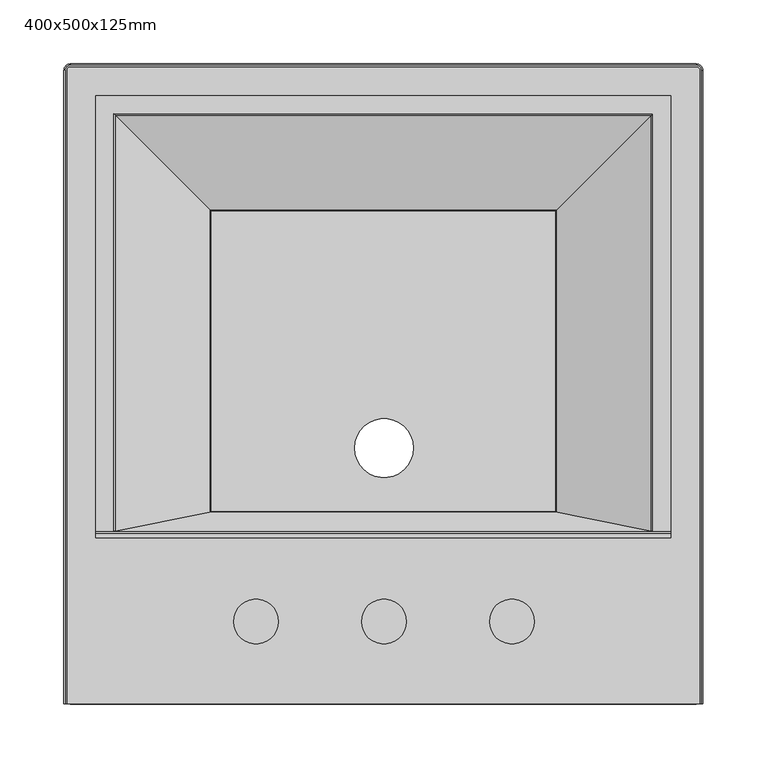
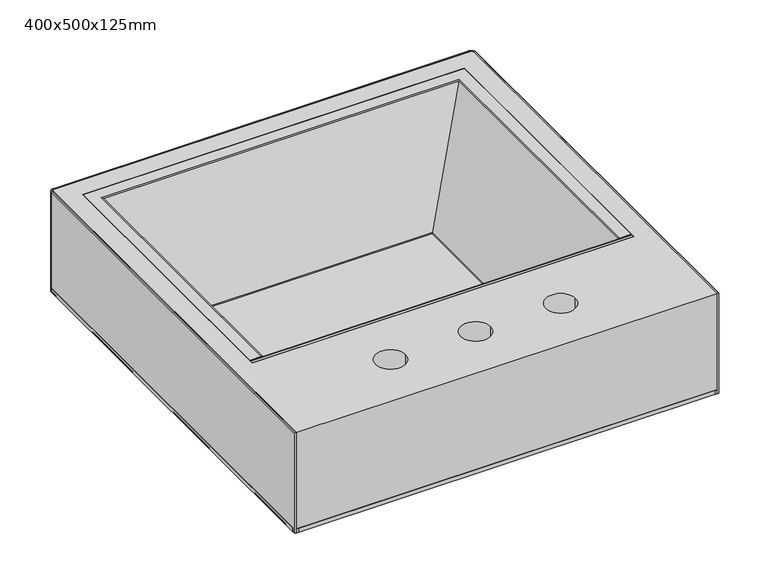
"""IFC4 building model written with IfcOpenShell, lengths in millimetres: flow terminal geometry, ARQ_LAVADO : 400x500x125mm."""

from ifc_helpers import new_model, si_unit, point, frame, frame_2d, origin, place, context, project, spatial, polyline, circle_curve, ellipse_curve, trimmed, segment, composite_curve, outline, extrude, source, transform, mapped, element, save
from ifc_brep_helpers import plane_surface, cylinder_surface, revolved_surface, advanced_brep


def flow_terminal_400x500x125mm_b4930f80(model_context):
    return source(origin(), model_context, "Body", "SolidModel", [
        extrude(outline(composite_curve([segment(trimmed(circle_curve(frame_2d((-119.4895, 555.0)), 5.0), [point((-124.4895, 555.0))], [point((-119.4895, 560.0))], False, "CARTESIAN"), True, "CONTINUOUS"), segment(polyline([(-119.4895, 560.0), (369.4895, 560.0)]), True, "CONTINUOUS"), segment(trimmed(circle_curve(frame_2d((369.4895, 555.0)), 5.0), [point((369.4895, 560.0))], [point((374.4895, 555.0))], False, "CARTESIAN"), True, "CONTINUOUS"), segment(polyline([(374.4895, 555.0), (374.4895, 65.0)]), True, "CONTINUOUS"), segment(trimmed(circle_curve(frame_2d((369.4895, 65.0)), 5.0), [point((374.4895, 65.0))], [point((369.4895, 60.0))], False, "CARTESIAN"), True, "CONTINUOUS"), segment(polyline([(369.4895, 60.0), (-119.4895, 60.0)]), True, "CONTINUOUS"), segment(trimmed(circle_curve(frame_2d((-119.4895, 65.0)), 5.0), [point((-119.4895, 60.0))], [point((-124.4895, 65.0))], False, "CARTESIAN"), True, "CONTINUOUS"), segment(polyline([(-124.4895, 65.0), (-124.4895, 555.0)]), True, "CONTINUOUS")], self_intersect=False), holes=[composite_curve([segment(trimmed(circle_curve(frame_2d((125.5105, 260.0)), 23.0), [point((148.5105, 260.0))], [point((102.5105, 260.0))], True, "CARTESIAN"), True, "CONTINUOUS"), segment(trimmed(circle_curve(frame_2d((125.5105, 260.0)), 23.0), [point((102.5105, 260.0))], [point((148.5105, 260.0))], True, "CARTESIAN"), True, "CONTINUOUS")], self_intersect=False)]), frame((0.0, 0.0, 624.95758), z_axis=(0.0, 0.0, 1.0), x_axis=(1.0, 0.0, 0.0)), (0.0, 0.0, 1.0), 5.04242),
        advanced_brep(
        [(-123.4895, 60.0, 750.0), (-124.4895, 60.0, 749.0), (-124.4895, 60.0, 626.0), (-123.4895, 60.0, 625.0), (-122.4895, 60.0, 625.0), (-122.4895, 60.0, 750.0), (-123.4895, 555.0, 750.0), (-124.4895, 555.0, 749.0), (-124.4895, 555.0, 626.0), (-123.4895, 555.0, 625.0), (-119.4895, 559.0, 625.0), (369.4895, 559.0, 625.0), (373.4895, 555.0, 625.0), (373.4895, 60.0, 625.0), (372.4895, 60.0, 625.0), (372.4895, 555.0, 625.0), (369.4895, 558.0, 625.0), (-119.4895, 558.0, 625.0), (-122.4895, 555.0, 625.0), (-122.4895, 555.0, 750.0), (-119.4895, 558.0, 750.0), (369.4895, 558.0, 750.0), (372.4895, 555.0, 750.0), (372.4895, 60.0, 750.0), (373.4895, 60.0, 750.0), (373.4895, 555.0, 750.0), (369.4895, 559.0, 750.0), (-119.4895, 559.0, 750.0), (-119.4895, 560.0, 749.0), (-119.4895, 560.0, 626.0), (369.4895, 560.0, 749.0), (369.4895, 560.0, 626.0), (374.4895, 555.0, 749.0), (374.4895, 555.0, 626.0), (374.4895, 60.0, 626.0), (374.4895, 60.0, 749.0)],
        [
            (0, 1, circle_curve(frame((-123.4895, 60.0, 749.0), z_axis=(0.0, -1.0, 0.0), x_axis=(-1.0, 0.0, 0.0)), 1.0)),
            (1, 2),
            (2, 3, circle_curve(frame((-123.4895, 60.0, 626.0), z_axis=(0.0, -1.0, 0.0), x_axis=(-1.0, 0.0, 0.0)), 1.0)),
            (3, 4),
            (4, 5),
            (5, 0),
            (0, 6),
            (6, 7, circle_curve(frame((-123.4895, 555.0, 749.0), z_axis=(0.0, -1.0, 0.0), x_axis=(-1.0, 0.0, 0.0)), 1.0)),
            (7, 1),
            (7, 8),
            (8, 2),
            (8, 9, circle_curve(frame((-123.4895, 555.0, 626.0), z_axis=(0.0, -1.0, 0.0), x_axis=(-1.0, 0.0, 0.0)), 1.0)),
            (9, 3),
            (9, 10, circle_curve(frame((-119.4895, 555.0, 625.0), z_axis=(0.0, 0.0, -1.0), x_axis=(-1.0, 0.0, 0.0)), 4.0)),
            (10, 11),
            (11, 12, circle_curve(frame((369.4895, 555.0, 625.0), z_axis=(0.0, 0.0, -1.0), x_axis=(0.0, 1.0, 0.0)), 4.0)),
            (12, 13),
            (13, 14),
            (14, 15),
            (15, 16, circle_curve(frame((369.4895, 555.0, 625.0), z_axis=(0.0, 0.0, 1.0), x_axis=(0.0, 1.0, 0.0)), 3.0)),
            (16, 17),
            (17, 18, circle_curve(frame((-119.4895, 555.0, 625.0), z_axis=(0.0, 0.0, 1.0), x_axis=(-1.0, 0.0, 0.0)), 3.0)),
            (18, 4),
            (18, 19),
            (19, 5),
            (19, 20, circle_curve(frame((-119.4895, 555.0, 750.0), z_axis=(0.0, 0.0, -1.0), x_axis=(-1.0, 0.0, 0.0)), 3.0)),
            (20, 21),
            (21, 22, circle_curve(frame((369.4895, 555.0, 750.0), z_axis=(0.0, 0.0, -1.0), x_axis=(0.0, 1.0, 0.0)), 3.0)),
            (22, 23),
            (23, 24),
            (24, 25),
            (25, 26, circle_curve(frame((369.4895, 555.0, 750.0), z_axis=(0.0, 0.0, 1.0), x_axis=(0.0, 1.0, 0.0)), 4.0)),
            (26, 27),
            (27, 6, circle_curve(frame((-119.4895, 555.0, 750.0), z_axis=(0.0, 0.0, 1.0), x_axis=(-1.0, 0.0, 0.0)), 4.0)),
            (28, 7, circle_curve(frame((-119.4895, 555.0, 749.0), z_axis=(0.0, 0.0, 1.0), x_axis=(-1.0, 0.0, 0.0)), 5.0)),
            (27, 28, circle_curve(frame((-119.4895, 559.0, 749.0), z_axis=(-1.0, 0.0, 0.0), x_axis=(0.0, 1.0, 0.0)), 1.0)),
            (29, 8, circle_curve(frame((-119.4895, 555.0, 626.0), z_axis=(0.0, 0.0, 1.0), x_axis=(-1.0, 0.0, 0.0)), 5.0)),
            (28, 29),
            (29, 10, circle_curve(frame((-119.4895, 559.0, 626.0), z_axis=(-1.0, 0.0, 0.0), x_axis=(0.0, 1.0, 0.0)), 1.0)),
            (17, 20),
            (26, 30, circle_curve(frame((369.4895, 559.0, 749.0), z_axis=(-1.0, 0.0, 0.0), x_axis=(0.0, 1.0, 0.0)), 1.0)),
            (30, 28),
            (30, 31),
            (31, 29),
            (31, 11, circle_curve(frame((369.4895, 559.0, 626.0), z_axis=(-1.0, 0.0, 0.0), x_axis=(0.0, 1.0, 0.0)), 1.0)),
            (16, 21),
            (32, 30, circle_curve(frame((369.4895, 555.0, 749.0), z_axis=(0.0, 0.0, 1.0), x_axis=(0.0, 1.0, 0.0)), 5.0)),
            (25, 32, circle_curve(frame((373.4895, 555.0, 749.0), z_axis=(0.0, 1.0, 0.0), x_axis=(1.0, 0.0, 0.0)), 1.0)),
            (33, 31, circle_curve(frame((369.4895, 555.0, 626.0), z_axis=(0.0, 0.0, 1.0), x_axis=(0.0, 1.0, 0.0)), 5.0)),
            (32, 33),
            (33, 12, circle_curve(frame((373.4895, 555.0, 626.0), z_axis=(0.0, 1.0, 0.0), x_axis=(1.0, 0.0, 0.0)), 1.0)),
            (15, 22),
            (23, 14),
            (13, 34, circle_curve(frame((373.4895, 60.0, 626.0), z_axis=(0.0, -1.0, 0.0), x_axis=(1.0, 0.0, 0.0)), 1.0)),
            (34, 35),
            (35, 24, circle_curve(frame((373.4895, 60.0, 749.0), z_axis=(0.0, -1.0, 0.0), x_axis=(1.0, 0.0, 0.0)), 1.0)),
            (35, 32),
            (34, 33),
        ],
        [
            plane_surface(frame((-124.4895, 60.0, 630.0), z_axis=(0.0, -1.0, 0.0), x_axis=(0.0, 0.0, 1.0))),
            cylinder_surface(frame((-123.4895, 60.0, 749.0), z_axis=(0.0, -1.0, 0.0), x_axis=(-1.0, 0.0, 0.0)), 1.0),
            plane_surface(frame((-124.4895, 60.0, 749.0), z_axis=(-1.0, 0.0, 0.0), x_axis=(0.0, 1.0, 0.0))),
            cylinder_surface(frame((-123.4895, 60.0, 626.0), z_axis=(0.0, -1.0, 0.0), x_axis=(-1.0, 0.0, 0.0)), 1.0),
            plane_surface(frame((-123.4895, 60.0, 625.0), z_axis=(0.0, 0.0, -1.0), x_axis=(0.0, 1.0, 0.0))),
            plane_surface(frame((-122.4895, 60.0, 625.0), z_axis=(1.0, 0.0, 0.0), x_axis=(0.0, 1.0, 0.0))),
            plane_surface(frame((-122.4895, 60.0, 750.0), z_axis=(0.0, 0.0, 1.0), x_axis=(0.0, 1.0, 0.0))),
            revolved_surface(trimmed(ellipse_curve(frame((-123.4895, 555.0, 749.0), z_axis=(0.0, -1.0, 0.0), x_axis=(-1.0, 0.0, 0.0)), 1.0, 1.0), [point((-123.4895, 555.0, 750.0))], [point((-124.4895, 555.0, 749.0))], True, "CARTESIAN"), (-119.4895, 555.0, 630.0), (0.0, 0.0, -1.0)),
            cylinder_surface(frame((-119.4895, 555.0, 630.0), z_axis=(0.0, 0.0, -1.0), x_axis=(-1.0, 0.0, 0.0)), 5.0),
            revolved_surface(trimmed(ellipse_curve(frame((-123.4895, 555.0, 626.0), z_axis=(0.0, -1.0, 0.0), x_axis=(-1.0, 0.0, 0.0)), 1.0, 1.0), [point((-124.4895, 555.0, 626.0))], [point((-123.4895, 555.0, 625.0))], True, "CARTESIAN"), (-119.4895, 555.0, 630.0), (0.0, 0.0, -1.0)),
            revolved_surface(polyline([(-122.4895, 555.0, 625.0), (-122.4895, 555.0, 750.0)]), (-119.4895, 555.0, 630.0), (0.0, 0.0, -1.0)),
            cylinder_surface(frame((-119.4895, 559.0, 749.0), z_axis=(-1.0, 0.0, 0.0), x_axis=(0.0, 1.0, 0.0)), 1.0),
            plane_surface(frame((-119.4895, 560.0, 749.0), z_axis=(0.0, 1.0, 0.0), x_axis=(1.0, 0.0, 0.0))),
            cylinder_surface(frame((-119.4895, 559.0, 626.0), z_axis=(-1.0, 0.0, 0.0), x_axis=(0.0, 1.0, 0.0)), 1.0),
            plane_surface(frame((-119.4895, 558.0, 625.0), z_axis=(0.0, -1.0, 0.0), x_axis=(1.0, 0.0, 0.0))),
            revolved_surface(trimmed(ellipse_curve(frame((369.4895, 559.0, 749.0), z_axis=(-1.0, 0.0, 0.0), x_axis=(0.0, 1.0, 0.0)), 1.0, 1.0), [point((369.4895, 559.0, 750.0))], [point((369.4895, 560.0, 749.0))], True, "CARTESIAN"), (369.4895, 555.0, 630.0), (0.0, 0.0, -1.0)),
            cylinder_surface(frame((369.4895, 555.0, 630.0), z_axis=(0.0, 0.0, -1.0), x_axis=(0.0, 1.0, 0.0)), 5.0),
            revolved_surface(trimmed(ellipse_curve(frame((369.4895, 559.0, 626.0), z_axis=(-1.0, 0.0, 0.0), x_axis=(0.0, 1.0, 0.0)), 1.0, 1.0), [point((369.4895, 560.0, 626.0))], [point((369.4895, 559.0, 625.0))], True, "CARTESIAN"), (369.4895, 555.0, 630.0), (0.0, 0.0, -1.0)),
            revolved_surface(polyline([(369.4895, 558.0, 625.0), (369.4895, 558.0, 750.0)]), (369.4895, 555.0, 630.0), (0.0, 0.0, -1.0)),
            plane_surface(frame((374.4895, 60.0, 630.0), z_axis=(0.0, -1.0, 0.0), x_axis=(0.0, 0.0, 1.0))),
            cylinder_surface(frame((373.4895, 555.0, 749.0), z_axis=(0.0, 1.0, 0.0), x_axis=(1.0, 0.0, 0.0)), 1.0),
            plane_surface(frame((374.4895, 555.0, 749.0), z_axis=(1.0, 0.0, 0.0), x_axis=(0.0, -1.0, 0.0))),
            cylinder_surface(frame((373.4895, 555.0, 626.0), z_axis=(0.0, 1.0, 0.0), x_axis=(1.0, 0.0, 0.0)), 1.0),
            plane_surface(frame((372.4895, 555.0, 625.0), z_axis=(-1.0, 0.0, 0.0), x_axis=(0.0, -1.0, 0.0))),
        ],
        [
            (0, [[1, 2, 3, 4, 5, 6]]),
            (1, [[-1, 7, 8, 9]]),
            (2, [[-2, -9, 10, 11]]),
            (3, [[-3, -11, 12, 13]]),
            (4, [[-4, -13, 14, 15, 16, 17, 18, 19, 20, 21, 22, 23]]),
            (5, [[-5, -23, 24, 25]]),
            (6, [[-6, -25, 26, 27, 28, 29, 30, 31, 32, 33, 34, -7]]),
            (7, [[35, -8, -34, 36]]),
            (8, [[37, -10, -35, 38]]),
            (9, [[-14, -12, -37, 39]]),
            (10, [[-26, -24, -22, 40]]),
            (11, [[-36, -33, 41, 42]]),
            (12, [[-38, -42, 43, 44]]),
            (13, [[-39, -44, 45, -15]]),
            (14, [[-40, -21, 46, -27]]),
            (15, [[47, -41, -32, 48]]),
            (16, [[49, -43, -47, 50]]),
            (17, [[-16, -45, -49, 51]]),
            (18, [[-28, -46, -20, 52]]),
            (19, [[-30, 53, -18, 54, 55, 56]]),
            (20, [[-48, -31, -56, 57]]),
            (21, [[-50, -57, -55, 58]]),
            (22, [[-51, -58, -54, -17]]),
            (23, [[-52, -19, -53, -29]]),
        ],
    ),
        extrude(outline(composite_curve([segment(trimmed(circle_curve(frame_2d((369.4895, 555.0)), 3.0), [point((369.4895, 558.0))], [point((372.4895, 555.0))], False, "CARTESIAN"), True, "CONTINUOUS"), segment(polyline([(372.4895, 555.0), (372.4895, 60.0), (-122.4895, 60.0), (-122.4895, 555.0)]), True, "CONTINUOUS"), segment(trimmed(circle_curve(frame_2d((-119.4895, 555.0)), 3.0), [point((-122.4895, 555.0))], [point((-119.4895, 558.0))], False, "CARTESIAN"), True, "CONTINUOUS"), segment(polyline([(-119.4895, 558.0), (369.4895, 558.0)]), True, "CONTINUOUS")], self_intersect=False), holes=[composite_curve([segment(trimmed(circle_curve(frame_2d((25.51071, 124.360641)), 17.5), [point((8.01071, 124.360641))], [point((43.01071, 124.360641))], True, "CARTESIAN"), True, "CONTINUOUS"), segment(trimmed(circle_curve(frame_2d((25.51071, 124.360641)), 17.5), [point((43.01071, 124.360641))], [point((8.01071, 124.360641))], True, "CARTESIAN"), True, "CONTINUOUS")], self_intersect=False), composite_curve([segment(trimmed(circle_curve(frame_2d((125.51071, 124.360641)), 17.5), [point((108.01071, 124.360641))], [point((143.01071, 124.360641))], True, "CARTESIAN"), True, "CONTINUOUS"), segment(trimmed(circle_curve(frame_2d((125.51071, 124.360641)), 17.5), [point((143.01071, 124.360641))], [point((108.01071, 124.360641))], True, "CARTESIAN"), True, "CONTINUOUS")], self_intersect=False), composite_curve([segment(trimmed(circle_curve(frame_2d((225.51071, 124.360641)), 17.5), [point((243.01071, 124.360641))], [point((208.01071, 124.360641))], True, "CARTESIAN"), True, "CONTINUOUS"), segment(trimmed(circle_curve(frame_2d((225.51071, 124.360641)), 17.5), [point((208.01071, 124.360641))], [point((243.01071, 124.360641))], True, "CARTESIAN"), True, "CONTINUOUS")], self_intersect=False), polyline([(-99.4895, 535.0), (-99.4895, 190.0), (349.4895, 190.0), (349.4895, 535.0), (-99.4895, 535.0)])]), frame((0.0, 0.0, 630.0), z_axis=(0.0, 0.0, 1.0), x_axis=(1.0, 0.0, 0.0)), (0.0, 0.0, 1.0), 120.0),
        extrude(outline(composite_curve([segment(polyline([(195.1022771, 748.2507881), (209.827107, 631.7492119)]), True, "CONTINUOUS"), segment(trimmed(circle_curve(frame_2d((211.811321, 632.0)), 2.0), [point((209.827107, 631.7492119))], [point((211.811321, 630.0))], True, "CARTESIAN"), True, "CONTINUOUS"), segment(polyline([(211.811321, 630.0), (215.6855127, 630.0), (215.6855127, 624.95758), (205.6855127, 624.95758), (189.8811913, 750.0), (193.1180631, 750.0)]), True, "CONTINUOUS"), segment(trimmed(circle_curve(frame_2d((193.1180631, 748.0)), 2.0), [point((193.1180631, 750.0))], [point((195.1022771, 748.2507881))], False, "CARTESIAN"), True, "CONTINUOUS")], self_intersect=False)), frame((-99.4895, 0.0, 0.0), z_axis=(1.0, 0.0, 0.0), x_axis=(0.0, 1.0, 0.0)), (0.0, 0.0, 1.0), 448.979),
        advanced_brep(
        [(-99.4895, 195.0, 750.0), (-99.4895, 195.0, 745.0), (-87.260742, 195.0, 745.0), (-12.2344223, 195.0, 624.95758), (-4.1362711, 195.0, 624.95758), (-4.1362711, 195.0, 630.0), (-8.381196, 195.0, 630.0), (-10.0771938, 195.0, 630.9400041), (-83.901999, 195.0, 749.0599959), (-85.5979968, 195.0, 750.0), (-99.4895, 535.0, 750.0), (-99.4895, 535.0, 745.0), (349.4895, 535.0, 745.0), (349.4895, 195.0, 745.0), (337.260742, 195.0, 745.0), (337.260742, 522.771242, 745.0), (-87.260742, 522.771242, 745.0), (-12.2344223, 447.7449223, 624.95758), (262.2344223, 447.7449223, 624.95758), (262.2344223, 195.0, 624.95758), (254.1362711, 195.0, 624.95758), (254.1362711, 439.6467711, 624.95758), (-4.1362711, 439.6467711, 624.95758), (-4.1362711, 439.6467711, 630.0), (254.1362711, 439.6467711, 630.0), (254.1362711, 195.0, 630.0), (258.381196, 195.0, 630.0), (258.381196, 443.891696, 630.0), (-8.381196, 443.891696, 630.0), (-10.0771938, 445.5876938, 630.9400041), (-83.901999, 519.412499, 749.0599959), (-85.5979968, 521.1084968, 750.0), (335.5979968, 521.1084968, 750.0), (335.5979968, 195.0, 750.0), (349.4895, 195.0, 750.0), (349.4895, 535.0, 750.0), (260.0771938, 445.5876938, 630.9400041), (333.901999, 519.412499, 749.0599959), (333.901999, 195.0, 749.0599959), (260.0771938, 195.0, 630.9400041)],
        [
            (0, 1),
            (1, 2),
            (2, 3),
            (3, 4),
            (4, 5),
            (5, 6),
            (6, 7, circle_curve(frame((-8.381196, 195.0, 632.0), z_axis=(0.0, 1.0, 0.0), x_axis=(-1.0, 0.0, 0.0)), 2.0)),
            (7, 8),
            (8, 9, circle_curve(frame((-85.5979968, 195.0, 748.0), z_axis=(0.0, -1.0, 0.0), x_axis=(-1.0, 0.0, 0.0)), 2.0)),
            (9, 0),
            (0, 10),
            (10, 11),
            (11, 1),
            (11, 12),
            (12, 13),
            (13, 14),
            (14, 15),
            (15, 16),
            (16, 2),
            (16, 17),
            (17, 3),
            (17, 18),
            (18, 19),
            (19, 20),
            (20, 21),
            (21, 22),
            (22, 4),
            (22, 23),
            (23, 5),
            (23, 24),
            (24, 25),
            (25, 26),
            (26, 27),
            (27, 28),
            (28, 6),
            (28, 29, ellipse_curve(frame((-8.381196, 443.891696, 632.0), z_axis=(0.7071067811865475, 0.7071067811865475, 0.0), x_axis=(-0.7071067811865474, 0.7071067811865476, 0.0)), 2.8284271, 2.0)),
            (29, 7),
            (29, 30),
            (30, 8),
            (30, 31, ellipse_curve(frame((-85.5979968, 521.1084968, 748.0), z_axis=(-0.7071067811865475, -0.7071067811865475, 0.0), x_axis=(0.7071067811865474, -0.7071067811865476, 0.0)), 2.8284271, 2.0)),
            (31, 9),
            (31, 32),
            (32, 33),
            (33, 34),
            (34, 35),
            (35, 10),
            (35, 12),
            (15, 18),
            (21, 24),
            (27, 36, ellipse_curve(frame((258.381196, 443.891696, 632.0), z_axis=(0.7071067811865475, -0.7071067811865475, 0.0), x_axis=(0.7071067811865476, 0.7071067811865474, 0.0)), 2.8284271, 2.0)),
            (36, 29),
            (36, 37),
            (37, 30),
            (37, 32, ellipse_curve(frame((335.5979968, 521.1084968, 748.0), z_axis=(-0.7071067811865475, 0.7071067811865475, 0.0), x_axis=(-0.7071067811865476, -0.7071067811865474, 0.0)), 2.8284271, 2.0)),
            (33, 38, circle_curve(frame((335.5979968, 195.0, 748.0), z_axis=(0.0, -1.0, 0.0), x_axis=(1.0, 0.0, 0.0)), 2.0)),
            (38, 39),
            (39, 26, circle_curve(frame((258.381196, 195.0, 632.0), z_axis=(0.0, 1.0, 0.0), x_axis=(1.0, 0.0, 0.0)), 2.0)),
            (25, 20),
            (19, 14),
            (13, 34),
            (39, 36),
            (38, 37),
        ],
        [
            plane_surface(frame((-99.4895, 195.0, 630.0), z_axis=(0.0, -1.0, 0.0), x_axis=(0.0, 0.0, 1.0))),
            plane_surface(frame((-99.4895, 195.0, 750.0), z_axis=(-1.0, 0.0, 0.0), x_axis=(0.0, 1.0, 0.0))),
            plane_surface(frame((-99.4895, 195.0, 745.0), z_axis=(0.0, 0.0, -1.0), x_axis=(0.0, 1.0, 0.0))),
            plane_surface(frame((-87.260742, 195.0, 745.0), z_axis=(-0.8479989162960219, 0.0, -0.5299979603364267), x_axis=(0.0, 1.0, 0.0))),
            plane_surface(frame((-12.2344223, 195.0, 624.95758), z_axis=(0.0, 0.0, -1.0), x_axis=(0.0, 1.0, 0.0))),
            plane_surface(frame((-4.1362711, 195.0, 624.95758), z_axis=(1.0, 0.0, 0.0), x_axis=(0.0, 1.0, 0.0))),
            plane_surface(frame((-4.1362711, 195.0, 630.0), z_axis=(0.0, 0.0, 1.0), x_axis=(0.0, 1.0, 0.0))),
            revolved_surface(polyline([(-10.381196, 445.8916959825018, 632.0), (-10.381196, 195.0, 632.0)]), (-8.381196, 195.0, 632.0), (0.0, 1.0, 0.0)),
            plane_surface(frame((-10.0771938, 195.0, 630.9400041), z_axis=(0.8479989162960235, 0.0, 0.529997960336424), x_axis=(0.0, 1.0, 0.0))),
            cylinder_surface(frame((-85.5979968, 195.0, 748.0), z_axis=(0.0, -1.0, 0.0), x_axis=(-1.0, 0.0, 0.0)), 2.0),
            plane_surface(frame((-85.5979968, 195.0, 750.0), z_axis=(0.0, 0.0, 1.0), x_axis=(0.0, 1.0, 0.0))),
            plane_surface(frame((-99.4895, 535.0, 750.0), z_axis=(0.0, 1.0, 0.0), x_axis=(1.0, 0.0, 0.0))),
            plane_surface(frame((-87.260742, 522.771242, 745.0), z_axis=(0.0, 0.8479989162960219, -0.5299979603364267), x_axis=(1.0, 0.0, 0.0))),
            plane_surface(frame((-4.1362711, 439.6467711, 624.95758), z_axis=(0.0, -1.0, 0.0), x_axis=(1.0, 0.0, 0.0))),
            revolved_surface(polyline([(260.38119598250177, 445.891696, 632.0), (-10.381195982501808, 445.891696, 632.0)]), (-99.4895, 443.891696, 632.0), (1.0, 0.0, 0.0)),
            plane_surface(frame((-10.0771938, 445.5876938, 630.9400041), z_axis=(0.0, -0.8479989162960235, 0.529997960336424), x_axis=(1.0, 0.0, 0.0))),
            cylinder_surface(frame((-99.4895, 521.1084968, 748.0), z_axis=(-1.0, 0.0, 0.0), x_axis=(0.0, 1.0, 0.0)), 2.0),
            plane_surface(frame((349.4895, 195.0, 630.0), z_axis=(0.0, -1.0, 0.0), x_axis=(0.0, 0.0, 1.0))),
            plane_surface(frame((349.4895, 535.0, 750.0), z_axis=(1.0, 0.0, 0.0), x_axis=(0.0, -1.0, 0.0))),
            plane_surface(frame((337.260742, 522.771242, 745.0), z_axis=(0.8479989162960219, 0.0, -0.5299979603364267), x_axis=(0.0, -1.0, 0.0))),
            plane_surface(frame((254.1362711, 439.6467711, 624.95758), z_axis=(-1.0, 0.0, 0.0), x_axis=(0.0, -1.0, 0.0))),
            revolved_surface(polyline([(260.381196, 195.0, 632.0), (260.381196, 445.8916959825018, 632.0)]), (258.381196, 535.0, 632.0), (0.0, -1.0, 0.0)),
            plane_surface(frame((260.0771938, 445.5876938, 630.9400041), z_axis=(-0.8479989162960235, 0.0, 0.529997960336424), x_axis=(0.0, -1.0, 0.0))),
            cylinder_surface(frame((335.5979968, 535.0, 748.0), z_axis=(0.0, 1.0, 0.0), x_axis=(1.0, 0.0, 0.0)), 2.0),
        ],
        [
            (0, [[1, 2, 3, 4, 5, 6, 7, 8, 9, 10]]),
            (1, [[-1, 11, 12, 13]]),
            (2, [[-2, -13, 14, 15, 16, 17, 18, 19]]),
            (3, [[-3, -19, 20, 21]]),
            (4, [[-4, -21, 22, 23, 24, 25, 26, 27]]),
            (5, [[-5, -27, 28, 29]]),
            (6, [[-6, -29, 30, 31, 32, 33, 34, 35]]),
            (7, [[-7, -35, 36, 37]]),
            (8, [[-8, -37, 38, 39]]),
            (9, [[-9, -39, 40, 41]]),
            (10, [[-10, -41, 42, 43, 44, 45, 46, -11]]),
            (11, [[-12, -46, 47, -14]]),
            (12, [[-20, -18, 48, -22]]),
            (13, [[-28, -26, 49, -30]]),
            (14, [[-36, -34, 50, 51]]),
            (15, [[-38, -51, 52, 53]]),
            (16, [[-40, -53, 54, -42]]),
            (17, [[-44, 55, 56, 57, -32, 58, -24, 59, -16, 60]]),
            (18, [[-47, -45, -60, -15]]),
            (19, [[-48, -17, -59, -23]]),
            (20, [[-49, -25, -58, -31]]),
            (21, [[-50, -33, -57, 61]]),
            (22, [[-52, -61, -56, 62]]),
            (23, [[-54, -62, -55, -43]]),
        ],
    ),
    ])


if __name__ == "__main__":
    model = new_model("IFC4")
    model_context = context("Model", 3, world=origin())
    ifc_project = project(units=[si_unit("LENGTHUNIT", "METRE", prefix="MILLI")], contexts=[model_context])
    site = spatial("IfcSite", under=ifc_project)
    building = spatial("IfcBuilding", under=site)
    placement = place(None, origin())
    flow_terminal_400x500x125mm_shape = flow_terminal_400x500x125mm_b4930f80(model_context)
    element("IfcFlowTerminal", 1, ObjectType="ARQ_LAVADO : 400x500x125mm", at=placement, inside=building, context=model_context, shape_type="MappedRepresentation", body=[
        mapped(flow_terminal_400x500x125mm_shape, transform((0.0, 0.0, 0.0), x_axis=(1.0, 0.0, 0.0), y_axis=(0.0, 1.0, 0.0), z_axis=(0.0, 0.0, 1.0))),
    ])
    save(model, "model.ifc")
